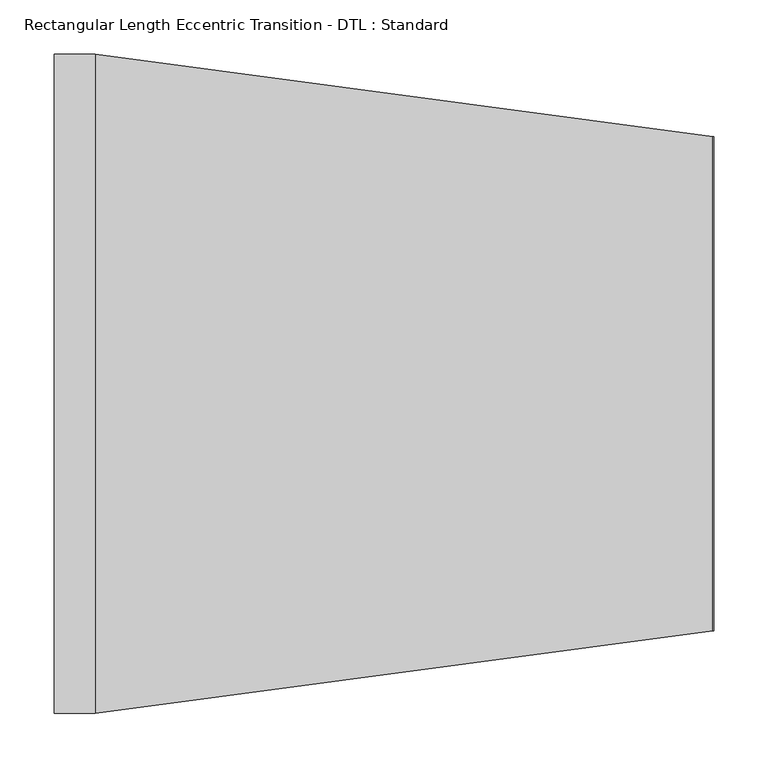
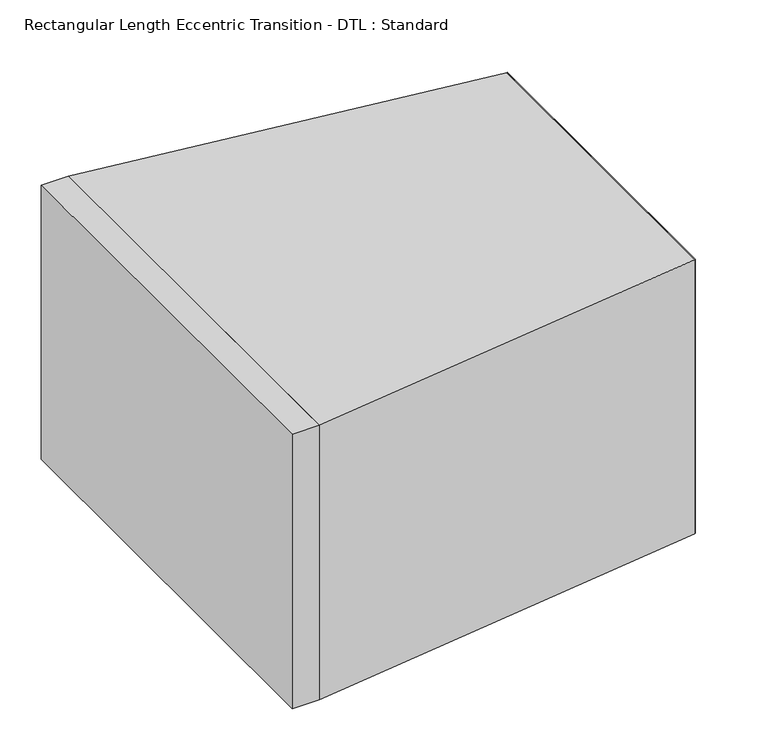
"""IFC4 building model written with IfcOpenShell, lengths in millimetres: duct fitting geometry, Rectangular Length Eccentric Transition - DTL : Standard."""

from ifc_helpers import new_model, si_unit, frame, origin, place, context, project, spatial, polyline, outline, extrude, source, transform, mapped, element, save


def rectangular_length_eccentric_transition_dtl_standard_4cfbaf53(model_context):
    return source(origin(), model_context, "Body", "SweptSolid", [
        extrude(outline(polyline([(609.6, 228.6), (609.6, -228.6), (608.80625, -228.6), (608.80625, 228.6), (609.6, 228.6)])), frame((0.0, 0.0, -203.2), z_axis=(0.0, 0.0, 1.0), x_axis=(1.0, 0.0, 0.0)), (0.0, 0.0, 1.0), 406.4),
        extrude(outline(polyline([(38.1, 304.8), (38.1, -304.8), (0.0, -304.8), (0.0, 304.8), (38.1, 304.8)])), frame((0.0, 0.0, -203.2), z_axis=(0.0, 0.0, 1.0), x_axis=(1.0, 0.0, 0.0)), (0.0, 0.0, 1.0), 406.4),
        extrude(outline(polyline([(608.80625, 228.6), (608.80625, -228.6), (38.1, -304.8), (38.1, 304.8), (608.80625, 228.6)])), frame((0.0, 0.0, -203.2), z_axis=(0.0, 0.0, 1.0), x_axis=(1.0, 0.0, 0.0)), (0.0, 0.0, 1.0), 406.4),
    ])


if __name__ == "__main__":
    model = new_model("IFC4")
    model_context = context("Model", 3, world=origin())
    ifc_project = project(units=[si_unit("LENGTHUNIT", "METRE", prefix="MILLI")], contexts=[model_context])
    site = spatial("IfcSite", under=ifc_project)
    building = spatial("IfcBuilding", under=site)
    placement = place(None, origin())
    rectangular_length_eccentric_transition_dtl_standard_shape = rectangular_length_eccentric_transition_dtl_standard_4cfbaf53(model_context)
    element("IfcDuctFitting", 1, ObjectType="Rectangular Length Eccentric Transition - DTL : Standard", at=placement, inside=building, context=model_context, shape_type="MappedRepresentation", body=[
        mapped(rectangular_length_eccentric_transition_dtl_standard_shape, transform((0.0, 0.0, 0.0), x_axis=(1.0, 0.0, 0.0), y_axis=(0.0, 1.0, 0.0), z_axis=(0.0, 0.0, 1.0))),
    ])
    save(model, "model.ifc")
